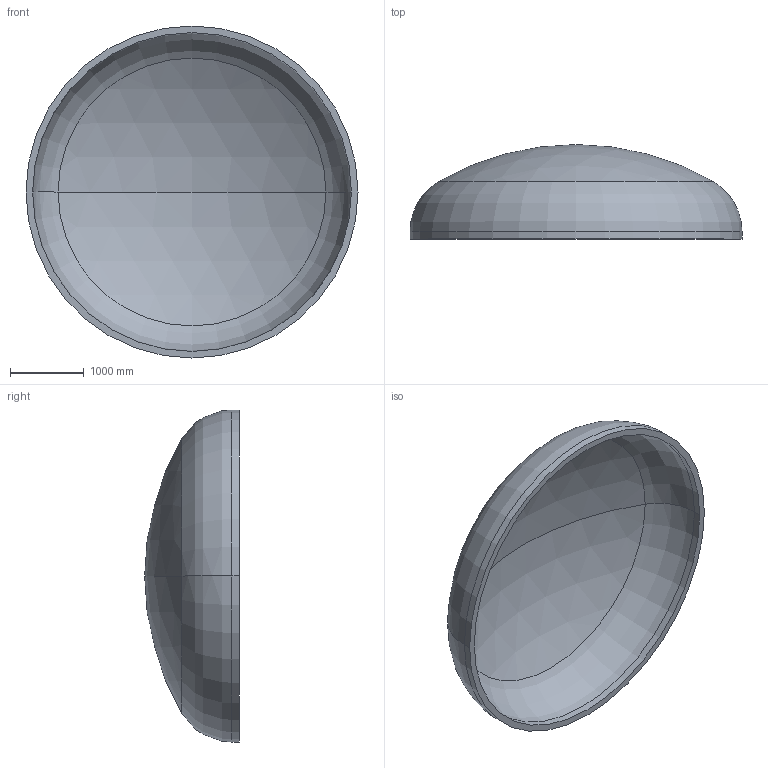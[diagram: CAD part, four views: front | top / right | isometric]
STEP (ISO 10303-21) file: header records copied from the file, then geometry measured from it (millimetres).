
FILE_DESCRIPTION (( 'STEP AP203' ), '1' );
FILE_NAME ('DIN 28013 Korbbogenform_-_Boden DIN 28013 - 4500 x 100 - I - s=90.step', '2016-07-01T23:47:24', ( '' ), ( '' ), 'SwSTEP 2.0', 'SolidWorks 2013', '' );
FILE_SCHEMA (( 'CONFIG_CONTROL_DESIGN' ));
Length unit declared in the file: millimetre
Products named in the file (1): DIN 28013 Korbbogenform_-_Boden DIN 28013 - 4500 x 100 - I - s=90
Bounding box: 4500 x 1281.45 x 4500 mm (x, y, z)
Volume: 2056731284 mm3; surface area: 46968986 mm2
Topology: 1 solids, 1 shells, 13 faces, 24 edges, 14 vertices
Faces by surface type: torus 4, cylinder 4, sphere 4, plane 1
Entity records: 407 total; most frequent: DIRECTION 72, CARTESIAN_POINT 52, ORIENTED_EDGE 48, AXIS2_PLACEMENT_3D 34, EDGE_CURVE 24, CIRCLE 20, VERTEX_POINT 14, EDGE_LOOP 14
